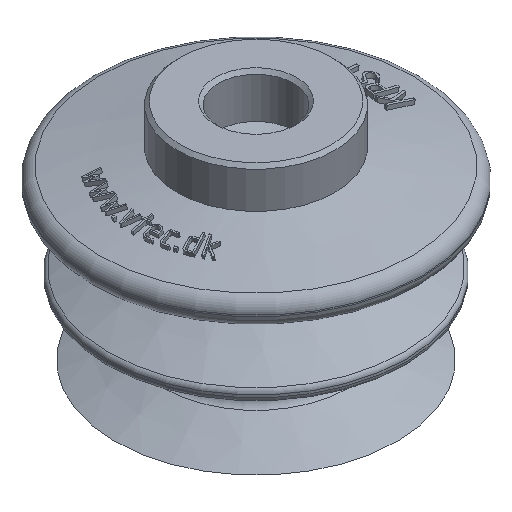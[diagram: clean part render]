
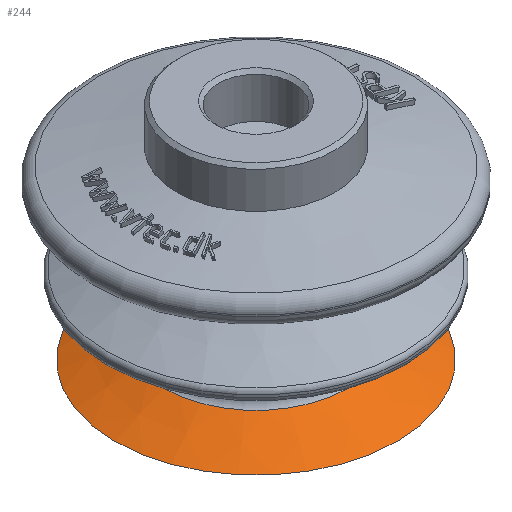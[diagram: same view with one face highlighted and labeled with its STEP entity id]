
A CAD part, isometric view. The second image highlights one B-rep face of the part: STEP entity #244.
In plain terms, the highlighted conical face has half-angle 66.352 degrees and reference radius 11.099 mm.
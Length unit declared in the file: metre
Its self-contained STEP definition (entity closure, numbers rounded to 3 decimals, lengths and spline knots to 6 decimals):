
#244 = ADVANCED_FACE( '', ( #631, #632 ), #633, .T. );
#631 = FACE_OUTER_BOUND( '', #4649, .T. );
#632 = FACE_BOUND( '', #4650, .T. );
#633 = CONICAL_SURFACE( '', #4651, 0.011099, 1.158 );
#4649 = EDGE_LOOP( '', ( #5623 ) );
#4650 = EDGE_LOOP( '', ( #5624 ) );
#4651 = AXIS2_PLACEMENT_3D( '', #5625, #5626, #5627 );
#5623 = ORIENTED_EDGE( '', *, *, #6093, .T. );
#5624 = ORIENTED_EDGE( '', *, *, #6094, .F. );
#5625 = CARTESIAN_POINT( '', ( 0., 0., -0.010416 ) );
#5626 = DIRECTION( '', ( 0., 0., -1. ) );
#5627 = DIRECTION( '', ( -1., 0., 0. ) );
#6093 = EDGE_CURVE( '', #6802, #6802, #6803, .T. );
#6094 = EDGE_CURVE( '', #6804, #6804, #6805, .T. );
#6802 = VERTEX_POINT( '', #9865 );
#6803 = CIRCLE( '', #9866, 0.017 );
#6804 = VERTEX_POINT( '', #9867 );
#6805 = CIRCLE( '', #9868, 0.011099 );
#9865 = CARTESIAN_POINT( '', ( 0.017, 0., -0.013 ) );
#9866 = AXIS2_PLACEMENT_3D( '', #10008, #10009, #10010 );
#9867 = CARTESIAN_POINT( '', ( 0.011099, 0., -0.010416 ) );
#9868 = AXIS2_PLACEMENT_3D( '', #10011, #10012, #10013 );
#10008 = CARTESIAN_POINT( '', ( 0., 0., -0.013 ) );
#10009 = DIRECTION( '', ( 0., 0., 1. ) );
#10010 = DIRECTION( '', ( 1., 0., 0. ) );
#10011 = CARTESIAN_POINT( '', ( 0., 0., -0.010416 ) );
#10012 = DIRECTION( '', ( 0., 0., 1. ) );
#10013 = DIRECTION( '', ( 1., 0., 0. ) );
